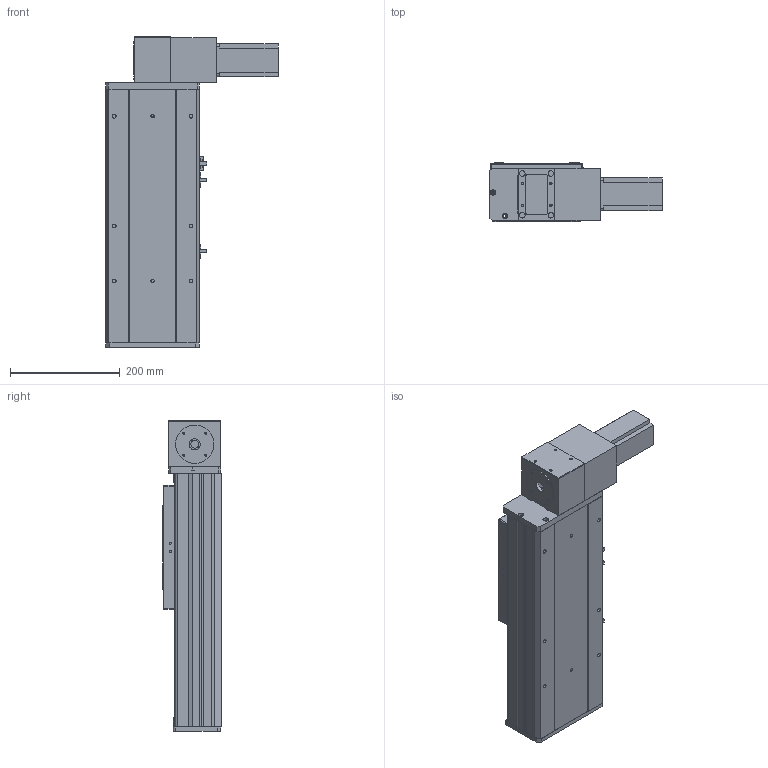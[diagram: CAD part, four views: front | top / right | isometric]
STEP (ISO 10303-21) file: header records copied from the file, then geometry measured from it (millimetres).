
FILE_DESCRIPTION (( 'STEP AP203' ), '1' );
FILE_NAME ('Y170CB-D105-S150-BD-P400W.STEP', '2020-02-20T08:03:16', ( '微软用户' ), ( '微软中国' ), 'SwSTEP 2.0', 'SolidWorks 2017', '' );
FILE_SCHEMA (( 'CONFIG_CONTROL_DESIGN' ));
Length unit declared in the file: millimetre
Products named in the file (16): Y100-135俋离換覜ん--; 70CB-掛极-; Y170CB-陔俋离換覜結え---; --70CB --喘謫眊楊擘啣-; Y1埴倛裔; 70CB-耜裔啣-; 70B喘謫眊----; 70C--詩湍揤踡え-; 70CB--耜裔; 70C-雄赽釱-奻-; 0B薊粣ん眊-400W--; Y170CB-D105-S150-BD-P400W; 0C--雄赽釱俋欶-170; B-源倛裔啣; 70CB-詩湍--; san松下电机400不带刹车----
Assembly tree (19 placements, depth 2):
  Y170CB-D105-S150-BD-P400W
    B-源倛裔啣
    san松下电机400不带刹车----
    70CB-掛极-
    --70CB --喘謫眊楊擘啣-
    70CB-耜裔啣-  x2
    70C--詩湍揤踡え-  x2
    70CB--耜裔
    70C-雄赽釱-奻-
    0C--雄赽釱俋欶-170
    70CB-詩湍--
    Y100-135俋离換覜ん--  x3
    Y170CB-陔俋离換覜結え---
    Y1埴倛裔
    70B喘謫眊----
    0B薊粣ん眊-400W--
Bounding box: 313.5 x 107 x 566 mm (x, y, z)
Volume: 3479820.1 mm3; surface area: 1097380.9 mm2
Topology: 19 solids, 19 shells, 888 faces, 2330 edges, 1544 vertices
Faces by surface type: cylinder 442, plane 422, cone 24
Entity records: 27551 total; most frequent: CARTESIAN_POINT 5086, DIRECTION 4479, ORIENTED_EDGE 4142, EDGE_CURVE 2071, AXIS2_PLACEMENT_3D 1641, VERTEX_POINT 1374, VECTOR 1197, LINE 1197
